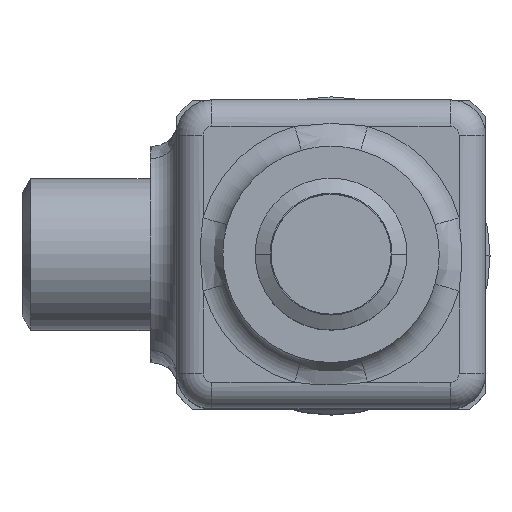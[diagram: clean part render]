
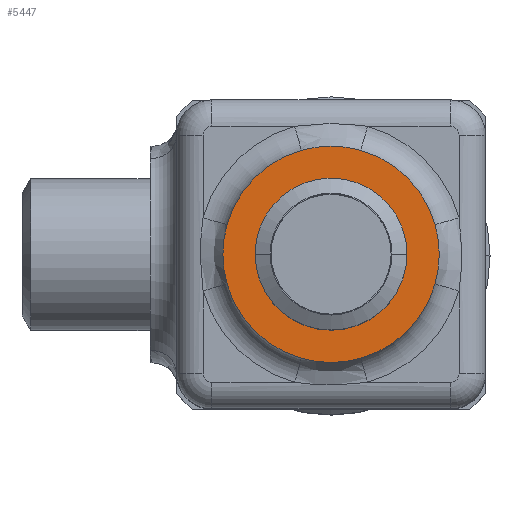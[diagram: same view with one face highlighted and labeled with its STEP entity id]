
A CAD part, top view. The second image highlights one B-rep face of the part: STEP entity #5447.
In plain terms, the highlighted planar face has unit normal (0, 0, 1).
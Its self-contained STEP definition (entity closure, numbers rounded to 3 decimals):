
#41 = VERTEX_POINT ( 'NONE', #6269 ) ;
#148 = EDGE_CURVE ( 'NONE', #9737, #5792, #6301, .T. ) ;
#256 = EDGE_CURVE ( 'NONE', #1118, #41, #6349, .T. ) ;
#612 = ORIENTED_EDGE ( 'NONE', *, *, #256, .T. ) ;
#667 = EDGE_CURVE ( 'NONE', #5792, #1331, #6643, .T. ) ;
#1028 = ORIENTED_EDGE ( 'NONE', *, *, #667, .T. ) ;
#1118 = VERTEX_POINT ( 'NONE', #6873 ) ;
#1331 = VERTEX_POINT ( 'NONE', #6915 ) ;
#1554 = EDGE_CURVE ( 'NONE', #1331, #1118, #7061, .T. ) ;
#1895 = CARTESIAN_POINT ( 'NONE',  ( -11.78, 3.36, 35. ) ) ;
#1923 = CARTESIAN_POINT ( 'NONE',  ( -8.6, 0., 35. ) ) ;
#2132 = CIRCLE ( 'NONE', #2133, 12.25 ) ;
#2133 = AXIS2_PLACEMENT_3D ( 'NONE', #2134, #2135, #2136 ) ;
#2134 = CARTESIAN_POINT ( 'NONE',  ( 0., 0., 35. ) ) ;
#2135 = DIRECTION ( 'NONE',  ( 0., 0., 1. ) ) ;
#2136 = DIRECTION ( 'NONE',  ( 1., 0., 0. ) ) ;
#2294 = CARTESIAN_POINT ( 'NONE',  ( -11.78, -3.36, 35. ) ) ;
#2492 = CARTESIAN_POINT ( 'NONE',  ( 3.36, -11.78, 35. ) ) ;
#2731 = CIRCLE ( 'NONE', #2732, 12.25 ) ;
#2732 = AXIS2_PLACEMENT_3D ( 'NONE', #2733, #2734, #2735 ) ;
#2733 = CARTESIAN_POINT ( 'NONE',  ( 0., 0., 35. ) ) ;
#2734 = DIRECTION ( 'NONE',  ( 0., 0., 1. ) ) ;
#2735 = DIRECTION ( 'NONE',  ( 1., 0., 0. ) ) ;
#2860 = EDGE_CURVE ( 'NONE', #5743, #9240, #9584, .T. ) ;
#3305 = ORIENTED_EDGE ( 'NONE', *, *, #1554, .T. ) ;
#3816 = EDGE_LOOP ( 'NONE', ( #3305, #612, #9757, #10177, #4983, #5782, #9241, #1028 ) ) ;
#4047 = ORIENTED_EDGE ( 'NONE', *, *, #6326, .F. ) ;
#4374 = CIRCLE ( 'NONE', #4375, 12.25 ) ;
#4375 = AXIS2_PLACEMENT_3D ( 'NONE', #4376, #4377, #4378 ) ;
#4376 = CARTESIAN_POINT ( 'NONE',  ( 0., 0., 35. ) ) ;
#4377 = DIRECTION ( 'NONE',  ( 0., 0., 1. ) ) ;
#4378 = DIRECTION ( 'NONE',  ( 1., 0., 0. ) ) ;
#4405 = CARTESIAN_POINT ( 'NONE',  ( -3.36, -11.78, 35. ) ) ;
#4526 = CIRCLE ( 'NONE', #4527, 8.6 ) ;
#4527 = AXIS2_PLACEMENT_3D ( 'NONE', #4528, #4529, #4530 ) ;
#4528 = CARTESIAN_POINT ( 'NONE',  ( 0., 0., 35. ) ) ;
#4529 = DIRECTION ( 'NONE',  ( 0., 0., 1. ) ) ;
#4530 = DIRECTION ( 'NONE',  ( 1., 0., 0. ) ) ;
#4627 = ORIENTED_EDGE ( 'NONE', *, *, #2860, .F. ) ;
#4858 = EDGE_CURVE ( 'NONE', #9185, #6117, #4374, .T. ) ;
#4929 = VERTEX_POINT ( 'NONE', #4405 ) ;
#4969 = FACE_BOUND ( 'NONE', #5418, .T. ) ;
#4970 = FACE_OUTER_BOUND ( 'NONE', #3816, .T. ) ;
#4971 = PLANE ( 'NONE',  #4972 ) ;
#4972 = AXIS2_PLACEMENT_3D ( 'NONE', #4973, #4974, #4975 ) ;
#4973 = CARTESIAN_POINT ( 'NONE',  ( 0., 0., 35. ) ) ;
#4974 = DIRECTION ( 'NONE',  ( 0., 0., 1. ) ) ;
#4975 = DIRECTION ( 'NONE',  ( 1., 0., 0. ) ) ;
#4983 = ORIENTED_EDGE ( 'NONE', *, *, #5563, .T. ) ;
#5418 = EDGE_LOOP ( 'NONE', ( #4627, #4047 ) ) ;
#5447 = ADVANCED_FACE ( 'NONE', ( #4969, #4970 ), #4971, .T. ) ;
#5563 = EDGE_CURVE ( 'NONE', #6117, #4929, #9532, .T. ) ;
#5743 = VERTEX_POINT ( 'NONE', #6283 ) ;
#5782 = ORIENTED_EDGE ( 'NONE', *, *, #9951, .T. ) ;
#5792 = VERTEX_POINT ( 'NONE', #6584 ) ;
#6117 = VERTEX_POINT ( 'NONE', #2294 ) ;
#6269 = CARTESIAN_POINT ( 'NONE',  ( -3.36, 11.78, 35. ) ) ;
#6283 = CARTESIAN_POINT ( 'NONE',  ( 8.6, 0., 35. ) ) ;
#6301 = CIRCLE ( 'NONE', #6302, 12.25 ) ;
#6302 = AXIS2_PLACEMENT_3D ( 'NONE', #6303, #6304, #6305 ) ;
#6303 = CARTESIAN_POINT ( 'NONE',  ( 0., 0., 35. ) ) ;
#6304 = DIRECTION ( 'NONE',  ( 0., 0., 1. ) ) ;
#6305 = DIRECTION ( 'NONE',  ( 1., 0., 0. ) ) ;
#6326 = EDGE_CURVE ( 'NONE', #9240, #5743, #4526, .T. ) ;
#6349 = CIRCLE ( 'NONE', #6350, 12.25 ) ;
#6350 = AXIS2_PLACEMENT_3D ( 'NONE', #6351, #6352, #6353 ) ;
#6351 = CARTESIAN_POINT ( 'NONE',  ( 0., 0., 35. ) ) ;
#6352 = DIRECTION ( 'NONE',  ( 0., 0., 1. ) ) ;
#6353 = DIRECTION ( 'NONE',  ( 1., 0., 0. ) ) ;
#6584 = CARTESIAN_POINT ( 'NONE',  ( 11.78, -3.36, 35. ) ) ;
#6643 = CIRCLE ( 'NONE', #6644, 12.25 ) ;
#6644 = AXIS2_PLACEMENT_3D ( 'NONE', #6645, #6646, #6647 ) ;
#6645 = CARTESIAN_POINT ( 'NONE',  ( 0., 0., 35. ) ) ;
#6646 = DIRECTION ( 'NONE',  ( 0., 0., 1. ) ) ;
#6647 = DIRECTION ( 'NONE',  ( 1., 0., 0. ) ) ;
#6873 = CARTESIAN_POINT ( 'NONE',  ( 3.36, 11.78, 35. ) ) ;
#6915 = CARTESIAN_POINT ( 'NONE',  ( 11.78, 3.36, 35. ) ) ;
#7061 = CIRCLE ( 'NONE', #7062, 12.25 ) ;
#7062 = AXIS2_PLACEMENT_3D ( 'NONE', #7063, #7064, #7065 ) ;
#7063 = CARTESIAN_POINT ( 'NONE',  ( 0., 0., 35. ) ) ;
#7064 = DIRECTION ( 'NONE',  ( 0., 0., 1. ) ) ;
#7065 = DIRECTION ( 'NONE',  ( 1., 0., 0. ) ) ;
#9185 = VERTEX_POINT ( 'NONE', #1895 ) ;
#9240 = VERTEX_POINT ( 'NONE', #1923 ) ;
#9241 = ORIENTED_EDGE ( 'NONE', *, *, #148, .T. ) ;
#9403 = EDGE_CURVE ( 'NONE', #41, #9185, #2132, .T. ) ;
#9532 = CIRCLE ( 'NONE', #9533, 12.25 ) ;
#9533 = AXIS2_PLACEMENT_3D ( 'NONE', #9534, #9535, #9536 ) ;
#9534 = CARTESIAN_POINT ( 'NONE',  ( 0., 0., 35. ) ) ;
#9535 = DIRECTION ( 'NONE',  ( 0., 0., 1. ) ) ;
#9536 = DIRECTION ( 'NONE',  ( 1., 0., 0. ) ) ;
#9584 = CIRCLE ( 'NONE', #9585, 8.6 ) ;
#9585 = AXIS2_PLACEMENT_3D ( 'NONE', #9586, #9587, #9588 ) ;
#9586 = CARTESIAN_POINT ( 'NONE',  ( 0., 0., 35. ) ) ;
#9587 = DIRECTION ( 'NONE',  ( 0., 0., 1. ) ) ;
#9588 = DIRECTION ( 'NONE',  ( 1., 0., 0. ) ) ;
#9737 = VERTEX_POINT ( 'NONE', #2492 ) ;
#9757 = ORIENTED_EDGE ( 'NONE', *, *, #9403, .T. ) ;
#9951 = EDGE_CURVE ( 'NONE', #4929, #9737, #2731, .T. ) ;
#10177 = ORIENTED_EDGE ( 'NONE', *, *, #4858, .T. ) ;
